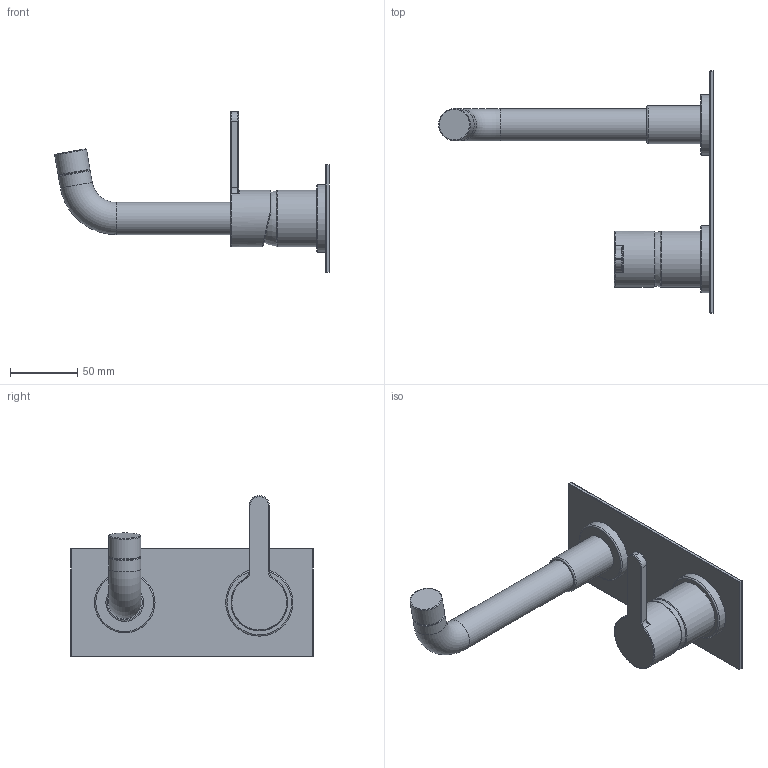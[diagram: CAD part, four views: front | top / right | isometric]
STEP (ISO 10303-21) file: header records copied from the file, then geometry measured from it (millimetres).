
FILE_DESCRIPTION(('STEP AP242'), '1');
FILE_NAME('92CR208P', '', ('UNSPECIFIED'), ('UNSPECIFIED'), 'ASCON STEP Converter 1.6', 'ASCON Math Kernel', '');
FILE_SCHEMA(('AP242_MANAGED_MODEL_BASED_3D_ENGINEERING_MIM_LF { 1 0 10303 442 1 1 4 }'));
Length unit declared in the file: millimetre
Bounding box: 204.17 x 180 x 119.44 mm (x, y, z)
Volume: 268641.4 mm3; surface area: 62714.5 mm2
Topology: 2 solids, 2 shells, 80 faces, 170 edges, 89 vertices
Faces by surface type: cylinder 30, torus 20, plane 18, sphere 8, bspline 4
Full cylindrical faces by diameter (mm): 24 x3, 28 x1, 42 x2, 45 x1, 50 x1
Entity records: 3107 total; most frequent: CARTESIAN_POINT 819, DIRECTION 367, ORIENTED_EDGE 286, AXIS2_PLACEMENT_3D 161, EDGE_CURVE 143, EDGE_LOOP 102, VERTEX_POINT 89, CIRCLE 84
